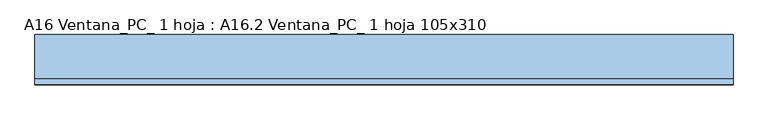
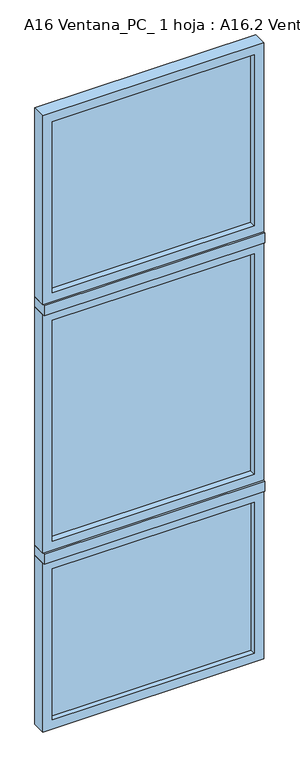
"""IFC4 building model written with IfcOpenShell, lengths in millimetres: window geometry, A16 Ventana_PC_ 1 hoja : A16.2 Ventana_PC_ 1 hoja 105x310."""

from ifc_helpers import new_model, si_unit, frame, origin, place, context, project, spatial, polyline, outline, extrude, source, transform, mapped, element, save


def a16_ventana_pc_1_hoja_a16_2_ventana_pc_1_hoja_105x310_39190f72(model_context):
    return source(origin(), model_context, "Body", "SweptSolid", [
        extrude(outline(polyline([(480.0, -37.5), (480.0, -53.5), (-480.0, -53.5), (-480.0, -37.5), (480.0, -37.5)])), frame((0.0, 0.0, 45.0), z_axis=(0.0, 0.0, 1.0), x_axis=(1.0, 0.0, 0.0)), (0.0, 0.0, 1.0), 760.0),
        extrude(outline(polyline([(480.0, -42.5), (480.0, -48.5), (-480.0, -48.5), (-480.0, -42.5), (480.0, -42.5)])), frame((0.0, 0.0, 2195.0), z_axis=(0.0, 0.0, 1.0), x_axis=(1.0, 0.0, 0.0)), (0.0, 0.0, 1.0), 860.0),
        extrude(outline(polyline([(480.0, -42.5), (480.0, -48.5), (-480.0, -48.5), (-480.0, -42.5), (480.0, -42.5)])), frame((0.0, 0.0, 945.0), z_axis=(0.0, 0.0, 1.0), x_axis=(1.0, 0.0, 0.0)), (0.0, 0.0, 1.0), 1110.0),
        extrude(outline(polyline([(850.0, -525.0), (0.0, -525.0), (0.0, 525.0), (850.0, 525.0), (850.0, -525.0)]), holes=[polyline([(805.0, -480.0), (805.0, 480.0), (45.0, 480.0), (45.0, -480.0), (805.0, -480.0)])]), frame((0.0, -78.5, 0.0), z_axis=(0.0, 1.0, 0.0), x_axis=(0.0, 0.0, 1.0)), (0.0, 0.0, 1.0), 66.0),
        extrude(outline(polyline([(3100.0, -525.0), (2150.0, -525.0), (2150.0, 525.0), (3100.0, 525.0), (3100.0, -525.0)]), holes=[polyline([(3055.0, -480.0), (3055.0, 480.0), (2195.0, 480.0), (2195.0, -480.0), (3055.0, -480.0)])]), frame((0.0, -78.5, 0.0), z_axis=(0.0, 1.0, 0.0), x_axis=(0.0, 0.0, 1.0)), (0.0, 0.0, 1.0), 66.0),
        extrude(outline(polyline([(2100.0, -525.0), (900.0, -525.0), (900.0, 525.0), (2100.0, 525.0), (2100.0, -525.0)]), holes=[polyline([(2055.0, -480.0), (2055.0, 480.0), (945.0, 480.0), (945.0, -480.0), (2055.0, -480.0)])]), frame((0.0, -78.5, 0.0), z_axis=(0.0, 1.0, 0.0), x_axis=(0.0, 0.0, 1.0)), (0.0, 0.0, 1.0), 66.0),
        extrude(outline(polyline([(525.0, -12.5), (525.0, -87.5), (-525.0, -87.5), (-525.0, -12.5), (525.0, -12.5)])), frame((0.0, 0.0, 2100.0), z_axis=(0.0, 0.0, 1.0), x_axis=(1.0, 0.0, 0.0)), (0.0, 0.0, 1.0), 50.0),
        extrude(outline(polyline([(525.0, -12.5), (525.0, -87.5), (-525.0, -87.5), (-525.0, -12.5), (525.0, -12.5)])), frame((0.0, 0.0, 850.0), z_axis=(0.0, 0.0, 1.0), x_axis=(1.0, 0.0, 0.0)), (0.0, 0.0, 1.0), 50.0),
    ])


if __name__ == "__main__":
    model = new_model("IFC4")
    model_context = context("Model", 3, world=origin())
    ifc_project = project(units=[si_unit("LENGTHUNIT", "METRE", prefix="MILLI")], contexts=[model_context])
    site = spatial("IfcSite", under=ifc_project)
    building = spatial("IfcBuilding", under=site)
    placement = place(None, origin())
    a16_ventana_pc_1_hoja_a16_2_ventana_pc_1_hoja_105x310_shape = a16_ventana_pc_1_hoja_a16_2_ventana_pc_1_hoja_105x310_39190f72(model_context)
    element("IfcWindow", 1, ObjectType="A16 Ventana_PC_ 1 hoja : A16.2 Ventana_PC_ 1 hoja 105x310", at=placement, inside=building, context=model_context, shape_type="MappedRepresentation", body=[
        mapped(a16_ventana_pc_1_hoja_a16_2_ventana_pc_1_hoja_105x310_shape, transform((0.0, 0.0, 0.0), x_axis=(1.0, 0.0, 0.0), y_axis=(0.0, 1.0, 0.0), z_axis=(0.0, 0.0, 1.0))),
    ])
    save(model, "model.ifc")
